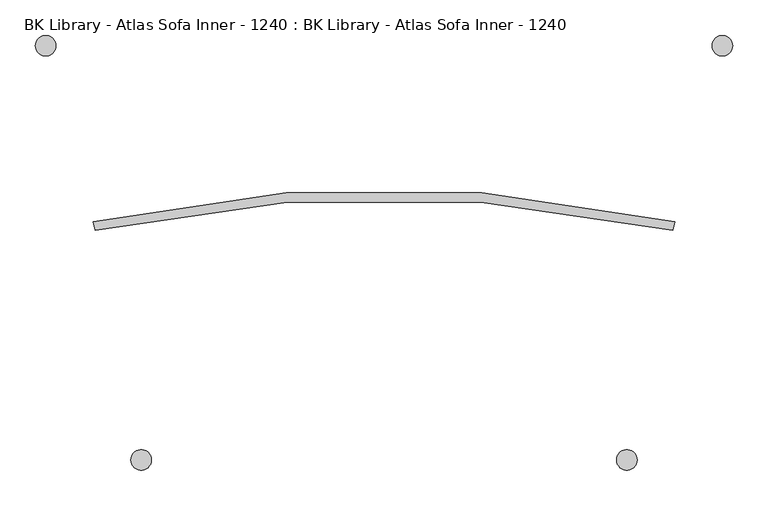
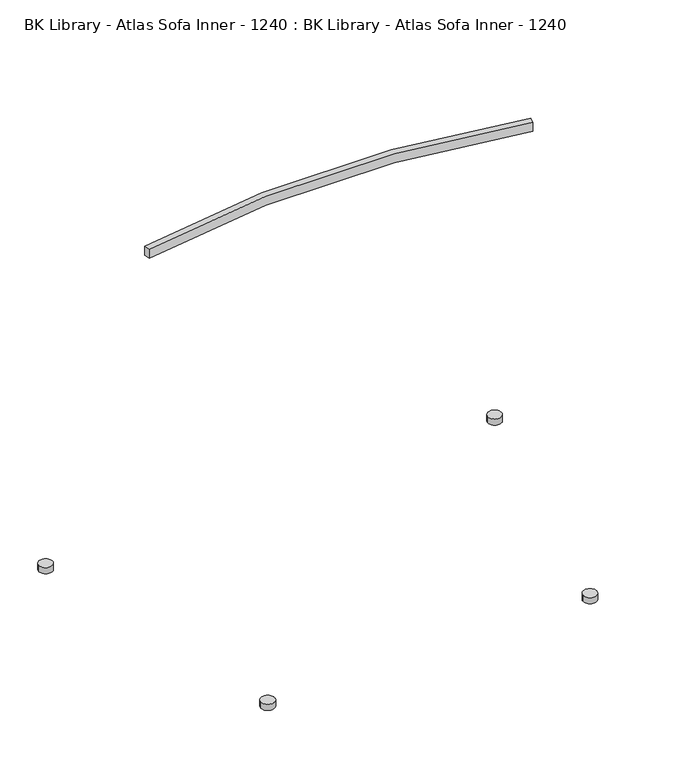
"""IFC4 building model written with IfcOpenShell, lengths in millimetres: furniture geometry, BK Library - Atlas Sofa Inner - 1240 : BK Library - Atlas Sofa Inner - 1240."""

from ifc_helpers import new_model, si_unit, point, frame, frame_2d, origin, origin_with_axes, place, context, project, spatial, polyline, circle_curve, trimmed, segment, composite_curve, outline, extrude, source, transform, mapped, element, save


def bk_library_atlas_sofa_inner_1240_bk_library_atlas_sofa_inner_55cf945c(model_context):
    return source(origin(), model_context, "Body", "SweptSolid", [
        extrude(outline(composite_curve([segment(trimmed(circle_curve(frame_2d((0.0, -1776.6858327)), 1864.3585062), [point((-410.605951, 41.8947656))], [point((410.605951, 41.8947656))], False, "CARTESIAN"), True, "CONTINUOUS"), segment(polyline([(410.605951, 41.8947656), (407.6853202, 29.2289965)]), True, "CONTINUOUS"), segment(trimmed(circle_curve(frame_2d((0.0, -1798.2835703)), 1872.4341116), [point((407.6853202, 29.2289965))], [point((-407.6853202, 29.2289965))], True, "CARTESIAN"), True, "CONTINUOUS"), segment(polyline([(-407.6853202, 29.2289965), (-410.605951, 41.8947656)]), True, "CONTINUOUS")], self_intersect=False)), frame((0.0, 0.0, 833.6999998), z_axis=(0.0, 0.0, 1.0), x_axis=(1.0, 0.0, 0.0)), (0.0, 0.0, 1.0), 20.0),
        extrude(outline(composite_curve([segment(trimmed(circle_curve(frame_2d((477.608406, 290.1883722)), 14.4994573), [point((492.1078633, 290.1883722))], [point((463.1089486, 290.1883722))], False, "CARTESIAN"), True, "CONTINUOUS"), segment(trimmed(circle_curve(frame_2d((477.608406, 290.1883722)), 14.4994573), [point((463.1089486, 290.1883722))], [point((492.1078633, 290.1883722))], False, "CARTESIAN"), True, "CONTINUOUS")], self_intersect=False)), origin_with_axes(), (0.0, 0.0, 1.0), 13.6999998),
        extrude(outline(composite_curve([segment(trimmed(circle_curve(frame_2d((-477.608406, 290.1883722)), 14.4994573), [point((-492.1078633, 290.1883722))], [point((-463.1089486, 290.1883722))], False, "CARTESIAN"), True, "CONTINUOUS"), segment(trimmed(circle_curve(frame_2d((-477.608406, 290.1883722)), 14.4994573), [point((-463.1089486, 290.1883722))], [point((-492.1078633, 290.1883722))], False, "CARTESIAN"), True, "CONTINUOUS")], self_intersect=False)), origin_with_axes(), (0.0, 0.0, 1.0), 13.6999998),
        extrude(outline(composite_curve([segment(trimmed(circle_curve(frame_2d((342.7923392, -294.4590973)), 14.4994573), [point((357.2917965, -294.4590973))], [point((328.2928818, -294.4590973))], False, "CARTESIAN"), True, "CONTINUOUS"), segment(trimmed(circle_curve(frame_2d((342.7923392, -294.4590973)), 14.4994573), [point((328.2928818, -294.4590973))], [point((357.2917965, -294.4590973))], False, "CARTESIAN"), True, "CONTINUOUS")], self_intersect=False)), origin_with_axes(), (0.0, 0.0, 1.0), 13.6999998),
        extrude(outline(composite_curve([segment(trimmed(circle_curve(frame_2d((-342.7923392, -294.4590973)), 14.4994573), [point((-357.2917965, -294.4590973))], [point((-328.2928818, -294.4590973))], False, "CARTESIAN"), True, "CONTINUOUS"), segment(trimmed(circle_curve(frame_2d((-342.7923392, -294.4590973)), 14.4994573), [point((-328.2928818, -294.4590973))], [point((-357.2917965, -294.4590973))], False, "CARTESIAN"), True, "CONTINUOUS")], self_intersect=False)), origin_with_axes(), (0.0, 0.0, 1.0), 13.6999998),
    ])


if __name__ == "__main__":
    model = new_model("IFC4")
    model_context = context("Model", 3, world=origin())
    ifc_project = project(units=[si_unit("LENGTHUNIT", "METRE", prefix="MILLI")], contexts=[model_context])
    site = spatial("IfcSite", under=ifc_project)
    building = spatial("IfcBuilding", under=site)
    placement = place(None, origin())
    bk_library_atlas_sofa_inner_1240_bk_library_atlas_sofa_inner_shape = bk_library_atlas_sofa_inner_1240_bk_library_atlas_sofa_inner_55cf945c(model_context)
    element("IfcFurniture", 1, ObjectType="BK Library - Atlas Sofa Inner - 1240 : BK Library - Atlas Sofa Inner - 1240", at=placement, inside=building, context=model_context, shape_type="MappedRepresentation", body=[
        mapped(bk_library_atlas_sofa_inner_1240_bk_library_atlas_sofa_inner_shape, transform((0.0, 0.0, 0.0), x_axis=(1.0, 0.0, 0.0), y_axis=(0.0, 1.0, 0.0), z_axis=(0.0, 0.0, 1.0))),
    ])
    save(model, "model.ifc")
